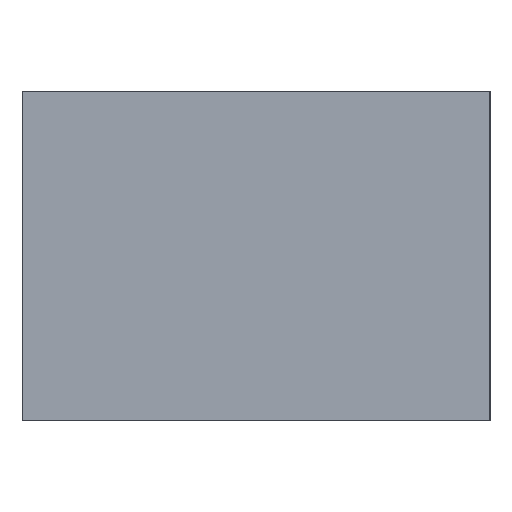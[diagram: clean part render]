
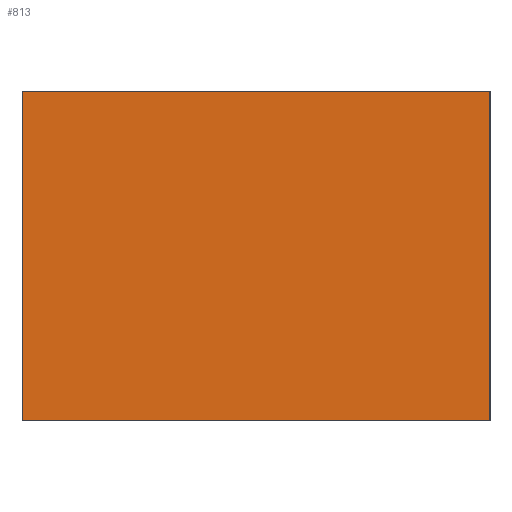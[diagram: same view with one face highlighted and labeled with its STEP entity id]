
A CAD part, left-side view. The second image highlights one B-rep face of the part: STEP entity #813.
In plain terms, the highlighted planar face has unit normal (-1, 0, 0).
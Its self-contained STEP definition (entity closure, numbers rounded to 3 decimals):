
#679=CARTESIAN_POINT('',(-1.702,-0.902,0.0));
#678=VERTEX_POINT('',#679);
#697=CARTESIAN_POINT('',(-1.702,-0.902,1.27));
#696=VERTEX_POINT('',#697);
#705=EDGE_CURVE('',#678,#696,#710,.T.);
#710=LINE('',#679,#712);
#712=VECTOR('',#713,1.27);
#713=DIRECTION('',(0.0,0.0,1.0));
#775=CARTESIAN_POINT('',(-1.702,0.902,0.0));
#774=VERTEX_POINT('',#775);
#785=CARTESIAN_POINT('',(-1.702,0.902,1.27));
#784=VERTEX_POINT('',#785);
#783=EDGE_CURVE('',#784,#774,#788,.T.);
#788=LINE('',#785,#790);
#790=VECTOR('',#791,1.27);
#791=DIRECTION('',(0.0,0.0,-1.0));
#813=ADVANCED_FACE('',(#819),#814,.T.);
#814=PLANE('',#815);
#815=AXIS2_PLACEMENT_3D('',#816,#817,#818);
#816=CARTESIAN_POINT('',(-1.702,0.902,0.0));
#817=DIRECTION('',(-1.0,0.0,0.0));
#818=DIRECTION('',(0.,0.,1.));
#819=FACE_OUTER_BOUND('',#820,.T.);
#820=EDGE_LOOP('',(#821,#831,#841,#851));
#822=EDGE_CURVE('',#678,#774,#827,.T.);
#827=LINE('',#679,#829);
#829=VECTOR('',#830,1.803);
#830=DIRECTION('',(0.0,1.0,0.0));
#821=ORIENTED_EDGE('',*,*,#822,.F.);
#831=ORIENTED_EDGE('',*,*,#705,.T.);
#842=EDGE_CURVE('',#784,#696,#847,.T.);
#847=LINE('',#785,#849);
#849=VECTOR('',#850,1.803);
#850=DIRECTION('',(0.0,-1.0,0.0));
#841=ORIENTED_EDGE('',*,*,#842,.F.);
#851=ORIENTED_EDGE('',*,*,#783,.T.);
